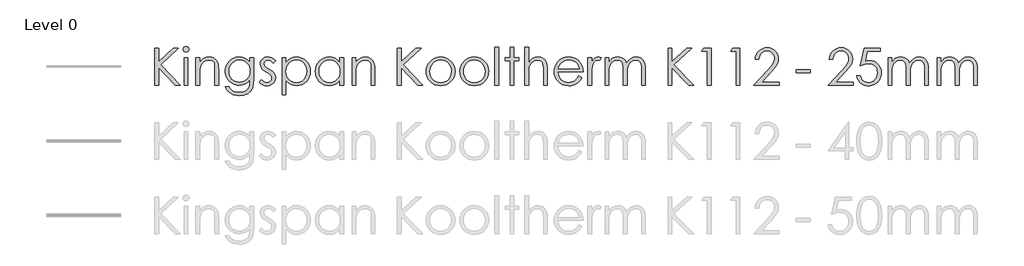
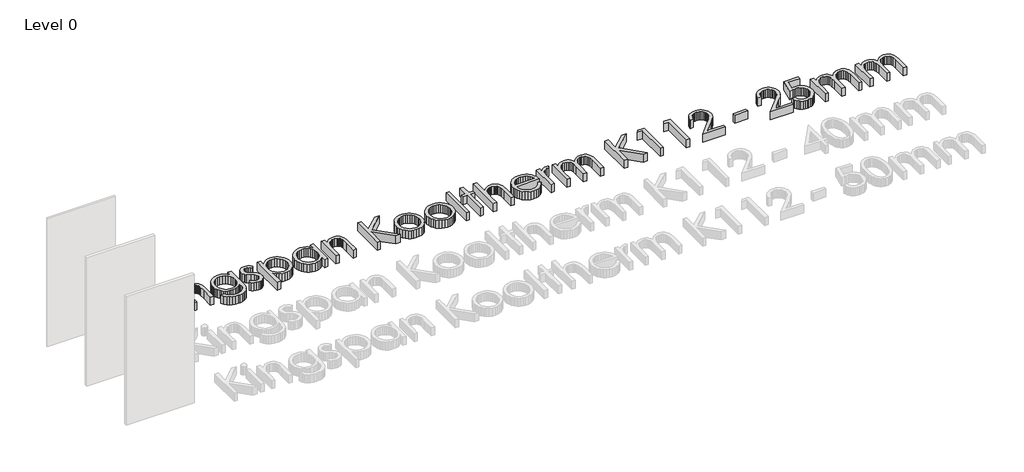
# One storey, part 14 of 14: 1 proxy.
"""IFC4 building model written with IfcOpenShell, lengths in millimetres."""

from ifc_helpers import new_model, si_unit, origin, origin_with_axes, place, context, project, spatial, polyline, outline, extrude, element, save

model = new_model("IFC4")

# Units and contexts
model_context = context("Model", 3, world=origin())
ifc_project = project(units=[si_unit("LENGTHUNIT", "METRE", prefix="MILLI")], contexts=[model_context])

# Site, building, storey
site = spatial("IfcSite", under=ifc_project)
building = spatial("IfcBuilding", under=site)
storey = spatial("IfcBuildingStorey", under=building, Name="Level 0", Elevation=0.0)

# Proxy
placement = place(None, origin())
element("IfcBuildingElementProxy", 1, Name="600mm KI_CenturyGothic", ObjectType="600mm KI_CenturyGothic", at=placement, inside=storey, context=model_context, shape_type="SweptSolid", body=[
    extrude(outline(polyline([(-3852.2663848, 5900.8965983), (-3792.944575, 5900.8965983), (-3792.944575, 5681.683973), (-3555.1938841, 5900.8965983), (-3471.6181051, 5900.8965983), (-3760.9664119, 5633.9484541), (-3441.9572002, 5307.6785001), (-3520.8984627, 5307.6785001), (-3792.944575, 5585.9039675), (-3792.944575, 5307.6785001), (-3852.2663848, 5307.6785001), (-3852.2663848, 5900.8965983)])), origin_with_axes(), (0.0, 0.0, 1.0), 150.0),
    extrude(outline(polyline([(-3348.1854852, 5930.5575033), (-3329.145347, 5927.2747208), (-3313.1176445, 5917.4263735), (-3302.226531, 5902.9821307), (-3298.5961598, 5885.911662), (-3302.226531, 5869.0729191), (-3313.1176445, 5854.7059183), (-3329.145347, 5844.857571), (-3348.1854852, 5841.5747885), (-3366.9938975, 5844.857571), (-3382.9443581, 5854.7059183), (-3393.8354717, 5869.0729191), (-3397.4658428, 5885.911662), (-3393.8354717, 5902.9821307), (-3382.9443581, 5917.4263735), (-3366.9938975, 5927.2747208), (-3348.1854852, 5930.5575033)])), origin_with_axes(), (0.0, 0.0, 1.0), 150.0),
    extrude(outline(polyline([(-3377.6919062, 5752.5920738), (-3318.3700964, 5752.5920738), (-3318.3700964, 5307.6785001), (-3377.6919062, 5307.6785001), (-3377.6919062, 5752.5920738)])), origin_with_axes(), (0.0, 0.0, 1.0), 150.0),
    extrude(outline(polyline([(-3189.8395084, 5752.5920738), (-3130.5176986, 5752.5920738), (-3130.5176986, 5673.4963274), (-3096.9946967, 5713.0055796), (-3060.0730495, 5740.696815), (-3019.7141359, 5757.0334853), (-2975.879335, 5762.4790421), (-2953.4357238, 5760.9004099), (-2932.2955704, 5756.1645135), (-2912.4588747, 5748.2713528), (-2893.9256368, 5737.2209277), (-2877.212412, 5723.4960006), (-2862.835756, 5707.5793333), (-2841.0921499, 5669.1707787), (-2833.6238199, 5644.7912914), (-2828.2892984, 5614.4448643), (-2824.0216812, 5535.8511905), (-2824.0216812, 5307.6785001), (-2883.343491, 5307.6785001), (-2883.343491, 5520.8662542), (-2883.343491, 5623.907002), (-2884.7290183, 5644.7043943), (-2889.8125035, 5662.7596977), (-2898.2849788, 5678.0729123), (-2910.1464442, 5690.644038), (-2924.7403432, 5700.4441091), (-2941.4101193, 5707.4441599), (-2980.977303, 5713.0442006), (-3005.3471351, 5710.8862539), (-3028.4038541, 5704.4124138), (-3050.1474602, 5693.6226803), (-3070.5779533, 5678.5170534), (-3088.6622225, 5660.2348518), (-3103.3671568, 5639.915394), (-3114.6927562, 5617.55868), (-3122.6390208, 5593.1647099), (-3128.5480292, 5546.0857475), (-3130.5176986, 5471.5858965), (-3130.5176986, 5307.6785001), (-3189.8395084, 5307.6785001), (-3189.8395084, 5752.5920738)])), origin_with_axes(), (0.0, 0.0, 1.0), 150.0),
    extrude(outline(polyline([(-2319.7862977, 5752.5920738), (-2260.4644879, 5752.5920738), (-2260.4644879, 5401.604699), (-2264.5196897, 5321.3503235), (-2269.588692, 5290.5500999), (-2276.6852953, 5265.9678526), (-2289.9371156, 5237.3545415), (-2307.2924139, 5212.2267729), (-2328.7511904, 5190.5845469), (-2354.3134448, 5172.4278634), (-2383.3226209, 5158.0656902), (-2415.122162, 5147.8069951), (-2449.7120682, 5141.651778), (-2487.0923395, 5139.6000389), (-2541.0458345, 5143.6166198), (-2589.206184, 5155.6663624), (-2630.260275, 5174.4940853), (-2662.8949946, 5198.8446068), (-2690.2000204, 5232.1938144), (-2715.2650299, 5278.0175952), (-2655.94322, 5278.0175952), (-2642.4355358, 5256.848476), (-2627.0933555, 5238.6048954), (-2609.9166791, 5223.2868532), (-2590.9055067, 5210.8943494), (-2569.7894914, 5201.3308318), (-2546.2982864, 5194.4997477), (-2492.1903075, 5189.0348805), (-2438.5071593, 5194.3645743), (-2415.083541, 5201.0266916), (-2393.93856, 5210.3536559), (-2359.6624492, 5234.3952097), (-2336.8567664, 5263.8823202), (-2329.3884364, 5282.5217658), (-2324.0539149, 5306.2302137), (-2319.7862977, 5368.8541165), (-2319.7862977, 5391.5632468), (-2354.757586, 5355.7809182), (-2396.6420279, 5329.3834852), (-2443.392712, 5313.1047464), (-2492.9627269, 5307.6785001), (-2522.4063889, 5309.5757553), (-2550.9521133, 5315.2675207), (-2578.5999001, 5324.7537964), (-2605.3497494, 5338.0345825), (-2630.1540674, 5354.5257366), (-2651.9652601, 5373.6431168), (-2670.7833277, 5395.3867228), (-2686.6082702, 5419.7565549), (-2699.1456025, 5446.0719183), (-2708.1008399, 5473.6521184), (-2713.4739824, 5502.4971553), (-2715.2650299, 5532.607029), (-2713.3967404, 5562.8955247), (-2707.7918722, 5592.1219437), (-2698.4504251, 5620.286286), (-2685.3723991, 5647.3885517), (-2668.9971079, 5672.5742517), (-2649.7638648, 5694.9888971), (-2627.67267, 5714.632488), (-2602.7235235, 5731.5050242), (-2575.9833294, 5745.056157), (-2548.5189922, 5754.7355376), (-2520.3305117, 5760.543166), (-2491.4178881, 5762.4790421), (-2444.5320306, 5757.5355579), (-2400.8903346, 5742.7051055), (-2359.6045177, 5716.1338782), (-2319.7862977, 5675.9680694), (-2319.7862977, 5752.5920738)]), holes=[polyline([(-2484.1571458, 5713.0442006), (-2529.0154023, 5707.0193293), (-2570.5908765, 5688.9447153), (-2606.2187212, 5660.2300242), (-2633.2340897, 5622.2849212), (-2650.2659375, 5578.0059792), (-2655.94322, 5530.2897708), (-2653.0080263, 5494.3770964), (-2644.2024452, 5461.7182387), (-2629.5264766, 5432.3131977), (-2608.9801206, 5406.1619734), (-2583.7606272, 5384.703197), (-2555.0652466, 5369.3754996), (-2522.8939786, 5360.1788811), (-2487.2468234, 5357.1133416), (-2451.3244937, 5360.154743), (-2419.1001219, 5369.2789472), (-2390.573708, 5384.4859541), (-2365.7452519, 5405.7757637), (-2345.6382095, 5432.0187128), (-2331.2760363, 5462.0851379), (-2322.6587323, 5495.975039), (-2319.7862977, 5533.6884162), (-2325.0773706, 5582.3894593), (-2340.9505892, 5625.6063246), (-2366.4983608, 5661.8327944), (-2400.8130926, 5689.5626508), (-2440.9982119, 5707.1738131), (-2484.1571458, 5713.0442006)])]), origin_with_axes(), (0.0, 0.0, 1.0), 150.0),
    extrude(outline(polyline([(-1904.5336289, 5701.3034257), (-1940.9918246, 5663.609359), (-1962.9575012, 5685.2371022), (-1984.6721416, 5700.6854902), (-2006.1357456, 5709.954523), (-2027.3483133, 5713.0442006), (-2052.181597, 5708.3710632), (-2073.2300256, 5694.3516511), (-2087.5970264, 5674.1142629), (-2092.3860267, 5650.787197), (-2088.4466878, 5629.2366958), (-2076.628671, 5608.7675817), (-2052.0657341, 5586.599145), (-2010.2006027, 5560.877579), (-1958.3326401, 5528.0111336), (-1939.8428507, 5512.1861912), (-1926.315856, 5496.7667689), (-1909.9791857, 5464.0934284), (-1904.5336289, 5427.5579908), (-1906.9474396, 5401.4115941), (-1914.1888714, 5377.3507299), (-1926.2579245, 5355.375398), (-1943.1545989, 5335.4855985), (-1963.6719892, 5318.9944443), (-1986.6031901, 5307.2150485), (-2011.9482016, 5300.147411), (-2039.7070237, 5297.7915318), (-2077.4397114, 5301.6729393), (-2113.3958344, 5313.3171617), (-2145.4512394, 5331.7972958), (-2171.4817731, 5356.1864383), (-2135.7959969, 5396.6612148), (-2114.0041146, 5375.0334717), (-2091.5749863, 5359.5850837), (-2068.5086121, 5350.3160509), (-2044.8049918, 5347.2263733), (-2013.637869, 5352.8650349), (-1987.4914724, 5369.7810198), (-1969.7644472, 5394.3439566), (-1963.8554388, 5422.9234744), (-1967.7561567, 5446.7139919), (-1979.4583106, 5467.7237995), (-2005.0253927, 5489.4287846), (-2050.2119275, 5516.2317378), (-2099.762632, 5546.8967879), (-2117.441381, 5562.0555186), (-2130.3890611, 5577.0983864), (-2146.3781427, 5609.2310334), (-2151.7078365, 5645.689229), (-2149.5305794, 5669.7356104), (-2142.9988078, 5691.6674937), (-2132.1125219, 5711.4848789), (-2116.8717217, 5729.187766), (-2098.309518, 5743.7526993), (-2077.4590218, 5754.1562231), (-2054.3202332, 5760.3983373), (-2028.8931521, 5762.4790421), (-1997.9481, 5758.6555661), (-1966.9064954, 5747.185138), (-1935.7683384, 5728.0677579), (-1904.5336289, 5701.3034257)])), origin_with_axes(), (0.0, 0.0, 1.0), 150.0),
    extrude(outline(polyline([(-1795.7769776, 5752.5920738), (-1736.4551678, 5752.5920738), (-1736.4551678, 5671.4880369), (-1700.9238754, 5711.7310876), (-1660.4490989, 5740.0788795), (-1614.9922173, 5756.8790014), (-1564.5146096, 5762.4790421), (-1520.0618732, 5758.2403906), (-1478.9305402, 5745.5244363), (-1441.1206107, 5724.331179), (-1406.6320845, 5694.6606189), (-1377.9077381, 5659.0231189), (-1357.3903478, 5619.929042), (-1345.0799137, 5577.3783884), (-1340.9764356, 5531.371158), (-1345.0412927, 5484.4708176), (-1357.235864, 5441.2491246), (-1377.5601494, 5401.706079), (-1406.014149, 5365.8416808), (-1440.2130179, 5336.0697406), (-1477.7719111, 5314.8040691), (-1518.6908288, 5302.0446661), (-1562.9697708, 5297.7915318), (-1612.6170277, 5303.256399), (-1658.0545988, 5319.6510008), (-1699.3211052, 5346.8980951), (-1736.4551678, 5384.92044), (-1736.4551678, 5149.4870072), (-1795.7769776, 5149.4870072), (-1795.7769776, 5752.5920738)]), holes=[polyline([(-1568.5311905, 5713.0442006), (-1602.5852307, 5709.7469353), (-1633.8392507, 5699.8551393), (-1662.2932503, 5683.3688128), (-1687.9472295, 5660.2879556), (-1709.1694525, 5632.3022353), (-1724.3281832, 5601.1013192), (-1733.4234216, 5566.6852074), (-1736.4551678, 5529.0538998), (-1731.048232, 5480.1983728), (-1714.8274246, 5436.5180558), (-1688.5265441, 5399.6736505), (-1652.8793888, 5371.3258586), (-1611.4390881, 5353.2512446), (-1567.7587711, 5347.2263733), (-1525.0632888, 5353.2898656), (-1485.0326535, 5371.4803424), (-1450.2544701, 5400.5812433), (-1423.3163435, 5439.3760076), (-1406.05277, 5484.0411593), (-1400.2982454, 5530.7532225), (-1405.9948385, 5577.6970114), (-1423.0846177, 5622.1304373), (-1449.8103289, 5660.4810605), (-1484.414718, 5689.1764411), (-1524.7157001, 5707.0772607), (-1568.5311905, 5713.0442006)])]), origin_with_axes(), (0.0, 0.0, 1.0), 150.0),
    extrude(outline(polyline([(-807.0801472, 5752.5920738), (-807.0801472, 5307.6785001), (-866.401957, 5307.6785001), (-866.401957, 5383.5300851), (-903.4780882, 5345.6815345), (-944.8797679, 5318.9558233), (-990.4525125, 5303.0826047), (-1040.0418379, 5297.7915318), (-1084.3159523, 5302.0446661), (-1125.2203871, 5314.8040691), (-1162.7551422, 5336.0697406), (-1196.9202178, 5365.8416808), (-1225.340424, 5401.706079), (-1245.6405713, 5441.2491246), (-1257.8206597, 5484.4708176), (-1261.8806892, 5531.371158), (-1257.7820388, 5577.3783884), (-1245.4860875, 5619.929042), (-1224.9928353, 5659.0231189), (-1196.3022822, 5694.6606189), (-1161.8475494, 5724.331179), (-1124.061758, 5745.5244363), (-1082.9449079, 5758.2403906), (-1038.4969991, 5762.4790421), (-987.7490446, 5756.8790014), (-942.0990581, 5740.0788795), (-921.2051134, 5727.3918909), (-901.6242816, 5711.7310876), (-866.401957, 5671.4880369), (-866.401957, 5752.5920738), (-807.0801472, 5752.5920738)]), holes=[polyline([(-1034.3259343, 5713.0442006), (-1078.1414247, 5707.0772607), (-1118.4424068, 5689.1764411), (-1153.0467959, 5660.4810605), (-1179.7725071, 5622.1304373), (-1196.8622863, 5577.6970114), (-1202.5588794, 5530.7532225), (-1196.8043548, 5484.0411593), (-1179.5407813, 5439.3760076), (-1152.6026548, 5400.5812433), (-1117.8244713, 5371.4803424), (-1077.6779731, 5353.2898656), (-1034.6349021, 5347.2263733), (-991.0125165, 5353.2512446), (-949.7460102, 5371.3258586), (-914.2726493, 5399.6736505), (-888.0297002, 5436.5180558), (-871.8088928, 5480.1983728), (-866.401957, 5529.0538998), (-869.4337032, 5566.6852074), (-878.5289416, 5601.1013192), (-893.6876723, 5632.3022353), (-914.9098953, 5660.2879556), (-940.5638746, 5683.3688128), (-969.0178742, 5699.8551393), (-1000.2718941, 5709.7469353), (-1034.3259343, 5713.0442006)])]), origin_with_axes(), (0.0, 0.0, 1.0), 150.0),
    extrude(outline(polyline([(-668.662591, 5752.5920738), (-609.3407811, 5752.5920738), (-609.3407811, 5673.4963274), (-575.8177792, 5713.0055796), (-538.896132, 5740.696815), (-498.5372184, 5757.0334853), (-454.7024175, 5762.4790421), (-432.2588064, 5760.9004099), (-411.1186529, 5756.1645135), (-391.2819572, 5748.2713528), (-372.7487193, 5737.2209277), (-356.0354946, 5723.4960006), (-341.6588385, 5707.5793333), (-319.9152324, 5669.1707787), (-312.4469024, 5644.7912914), (-307.1123809, 5614.4448643), (-302.8447637, 5535.8511905), (-302.8447637, 5307.6785001), (-362.1665735, 5307.6785001), (-362.1665735, 5520.8662542), (-362.1665735, 5623.907002), (-363.5521008, 5644.7043943), (-368.635586, 5662.7596977), (-377.1080613, 5678.0729123), (-388.9695267, 5690.644038), (-403.5634257, 5700.4441091), (-420.2332018, 5707.4441599), (-459.8003855, 5713.0442006), (-484.1702176, 5710.8862539), (-507.2269366, 5704.4124138), (-528.9705427, 5693.6226803), (-549.4010358, 5678.5170534), (-567.485305, 5660.2348518), (-582.1902393, 5639.915394), (-593.5158387, 5617.55868), (-601.4621033, 5593.1647099), (-607.3711117, 5546.0857475), (-609.3407811, 5471.5858965), (-609.3407811, 5307.6785001), (-668.662591, 5307.6785001), (-668.662591, 5752.5920738)])), origin_with_axes(), (0.0, 0.0, 1.0), 150.0),
    extrude(outline(polyline([(62.9730635, 5900.8965983), (122.2948734, 5900.8965983), (122.2948734, 5681.683973), (360.0455643, 5900.8965983), (443.6213432, 5900.8965983), (154.2730365, 5633.9484541), (473.2822481, 5307.6785001), (394.3409856, 5307.6785001), (122.2948734, 5585.9039675), (122.2948734, 5307.6785001), (62.9730635, 5307.6785001), (62.9730635, 5900.8965983)])), origin_with_axes(), (0.0, 0.0, 1.0), 150.0),
    extrude(outline(polyline([(760.1588128, 5762.4790421), (809.4681362, 5757.8541809), (854.3553585, 5743.9795975), (894.8204798, 5720.8552917), (930.8635, 5688.4812637), (957.7630055, 5653.2492839), (976.9769381, 5614.908316), (988.5052976, 5573.45836), (992.3480841, 5528.8994159), (988.283227, 5484.0846079), (976.0886558, 5442.1760279), (955.7643703, 5403.1736759), (927.3103707, 5367.0775519), (892.4742558, 5336.7649181), (853.0036246, 5315.1130368), (808.8984769, 5302.1219081), (760.1588128, 5297.7915318), (711.2839754, 5302.1219081), (667.0822753, 5315.1130368), (627.5537126, 5336.7649181), (592.6982872, 5367.0775519), (564.2442876, 5403.1736759), (543.9200022, 5442.1760279), (531.7254309, 5484.0846079), (527.6605738, 5528.8994159), (531.5033603, 5573.2652551), (543.0317198, 5614.5993482), (562.2456524, 5652.9016951), (589.145158, 5688.1722959), (625.2074886, 5720.6814974), (665.7305413, 5743.9023555), (710.7143161, 5757.8348705), (760.1588128, 5762.4790421)]), holes=[polyline([(760.004329, 5713.0442006), (725.7282181, 5709.6696933), (693.9624704, 5699.5461716), (664.7070856, 5682.6736353), (637.962064, 5659.0520846), (615.6584538, 5630.6415336), (599.7273037, 5599.4019965), (590.1686137, 5565.3334734), (586.9823836, 5528.4359643), (592.7948396, 5480.7004454), (610.2322075, 5436.3635719), (637.5758543, 5398.5729529), (673.1071466, 5370.4761972), (714.6439998, 5353.0388293), (760.004329, 5347.2263733), (805.3646581, 5353.0388293), (846.9015113, 5370.4761972), (882.4328037, 5398.5729529), (909.7764504, 5436.3635719), (927.2138183, 5480.7004454), (933.0262743, 5528.4359643), (929.8255614, 5565.3334734), (920.2234227, 5599.4019965), (904.2198583, 5630.6415336), (881.8148681, 5659.0520846), (854.9974321, 5682.6736353), (825.7565303, 5699.5461716), (794.0921625, 5709.6696933), (760.004329, 5713.0442006)])]), origin_with_axes(), (0.0, 0.0, 1.0), 150.0),
    extrude(outline(polyline([(1303.9420695, 5762.4790421), (1353.2513929, 5757.8541809), (1398.1386152, 5743.9795975), (1438.6037365, 5720.8552917), (1474.6467567, 5688.4812637), (1501.5462622, 5653.2492839), (1520.7601948, 5614.908316), (1532.2885543, 5573.45836), (1536.1313408, 5528.8994159), (1532.0664837, 5484.0846079), (1519.8719125, 5442.1760279), (1499.547627, 5403.1736759), (1471.0936274, 5367.0775519), (1436.2575126, 5336.7649181), (1396.7868813, 5315.1130368), (1352.6817336, 5302.1219081), (1303.9420695, 5297.7915318), (1255.0672321, 5302.1219081), (1210.865532, 5315.1130368), (1171.3369693, 5336.7649181), (1136.4815439, 5367.0775519), (1108.0275443, 5403.1736759), (1087.7032589, 5442.1760279), (1075.5086876, 5484.0846079), (1071.4438305, 5528.8994159), (1075.286617, 5573.2652551), (1086.8149766, 5614.5993482), (1106.0289091, 5652.9016951), (1132.9284147, 5688.1722959), (1168.9907453, 5720.6814974), (1209.5137981, 5743.9023555), (1254.4975728, 5757.8348705), (1303.9420695, 5762.4790421)]), holes=[polyline([(1303.7875857, 5713.0442006), (1269.5114748, 5709.6696933), (1237.7457271, 5699.5461716), (1208.4903423, 5682.6736353), (1181.7453207, 5659.0520846), (1159.4417105, 5630.6415336), (1143.5105604, 5599.4019965), (1133.9518704, 5565.3334734), (1130.7656404, 5528.4359643), (1136.5780963, 5480.7004454), (1154.0154643, 5436.3635719), (1181.359111, 5398.5729529), (1216.8904033, 5370.4761972), (1258.4272565, 5353.0388293), (1303.7875857, 5347.2263733), (1349.1479149, 5353.0388293), (1390.684768, 5370.4761972), (1426.2160604, 5398.5729529), (1453.5597071, 5436.3635719), (1470.997075, 5480.7004454), (1476.809531, 5528.4359643), (1473.6088181, 5565.3334734), (1464.0066795, 5599.4019965), (1448.003115, 5630.6415336), (1425.5981249, 5659.0520846), (1398.7806889, 5682.6736353), (1369.539787, 5699.5461716), (1337.8754193, 5709.6696933), (1303.7875857, 5713.0442006)])]), origin_with_axes(), (0.0, 0.0, 1.0), 150.0),
    extrude(outline(polyline([(1635.0010238, 5920.6705349), (1694.3228337, 5920.6705349), (1694.3228337, 5307.6785001), (1635.0010238, 5307.6785001), (1635.0010238, 5920.6705349)])), origin_with_axes(), (0.0, 0.0, 1.0), 150.0),
    extrude(outline(polyline([(1882.1752314, 5920.6705349), (1941.4970413, 5920.6705349), (1941.4970413, 5752.5920738), (2020.5927877, 5752.5920738), (2020.5927877, 5703.1572323), (1941.4970413, 5703.1572323), (1941.4970413, 5307.6785001), (1882.1752314, 5307.6785001), (1882.1752314, 5703.1572323), (1803.079485, 5703.1572323), (1803.079485, 5752.5920738), (1882.1752314, 5752.5920738), (1882.1752314, 5920.6705349)])), origin_with_axes(), (0.0, 0.0, 1.0), 150.0),
    extrude(outline(polyline([(2119.4624707, 5920.6705349), (2178.7842806, 5920.6705349), (2178.7842806, 5671.9514886), (2212.5583188, 5711.6538456), (2249.6151394, 5739.9243956), (2289.9161216, 5756.8403805), (2333.4226442, 5762.4790421), (2355.8662553, 5760.9004099), (2377.0064088, 5756.1645135), (2396.8431044, 5748.2713528), (2415.3763424, 5737.2209277), (2432.0895671, 5723.5104834), (2446.4662232, 5707.6372648), (2468.2098293, 5669.4025045), (2475.6781593, 5645.0954316), (2481.0126808, 5614.7345216), (2485.280298, 5535.8511905), (2485.280298, 5307.6785001), (2425.9584882, 5307.6785001), (2425.9584882, 5520.8662542), (2424.5681332, 5585.247411), (2420.3970685, 5623.907002), (2406.879729, 5662.7596977), (2397.1665551, 5678.0729123), (2385.4837117, 5690.644038), (2371.840854, 5700.4441091), (2356.2476374, 5707.4441599), (2319.2101273, 5713.0442006), (2296.3416854, 5710.8862539), (2274.6994594, 5704.4124138), (2254.2834492, 5693.6226803), (2235.0936547, 5678.5170534), (2218.1052556, 5660.2348518), (2204.2934312, 5639.915394), (2193.6581816, 5617.55868), (2186.1995068, 5593.1647099), (2180.6380871, 5546.3174733), (2178.7842806, 5471.5858965), (2178.7842806, 5307.6785001), (2119.4624707, 5307.6785001), (2119.4624707, 5920.6705349)])), origin_with_axes(), (0.0, 0.0, 1.0), 150.0),
    extrude(outline(polyline([(2991.0605203, 5455.9830247), (3038.950523, 5430.8021523), (3013.3255094, 5388.9177104), (2984.0315038, 5355.9547125), (2950.952643, 5330.8703926), (2913.9730643, 5312.6219843), (2872.4941426, 5301.4991449), (2825.9172528, 5297.7915318), (2774.4258447, 5302.2232881), (2728.8627554, 5315.518557), (2689.227985, 5337.6773385), (2655.5215335, 5368.6996326), (2628.6220279, 5405.3026569), (2609.4080954, 5444.2036288), (2597.8797358, 5485.4025485), (2594.0369493, 5528.8994159), (2597.3197318, 5569.7797126), (2607.1680791, 5608.381372), (2623.5819913, 5644.7043943), (2646.5614684, 5678.7487793), (2682.7493173, 5715.3807692), (2724.5758277, 5741.5464764), (2772.0409998, 5757.2459007), (2825.1448334, 5762.4790421), (2879.7935059, 5757.1107273), (2928.6490329, 5741.0057828), (2971.7114143, 5714.1642087), (3008.9806503, 5676.5860049), (3030.4539096, 5644.414737), (3045.9022976, 5608.458614), (3055.3258143, 5568.7176359), (3058.7244596, 5525.1918028), (2653.3587591, 5525.1918028), (2657.095338, 5487.9370497), (2666.6057518, 5454.1871496), (2681.8900007, 5423.9421025), (2702.9480845, 5397.2019084), (2728.3124066, 5375.3376118), (2756.5153699, 5359.7202571), (2787.5569744, 5350.3498443), (2821.4372203, 5347.2263733), (2854.9602222, 5350.238809), (2887.5563208, 5359.2761159), (2917.2944677, 5373.3148385), (2942.2436143, 5391.331521), (2965.725164, 5417.4972281), (2991.0605203, 5455.9830247)]), holes=[polyline([(2999.4026498, 5574.6266443), (2984.9777175, 5617.1483322), (2965.1844704, 5650.1692615), (2939.0766947, 5675.6977226), (2905.7081767, 5695.742006), (2867.7630738, 5708.7186519), (2827.9255433, 5713.0442006), (2795.503239, 5710.3310774), (2765.4368139, 5702.191708), (2737.726268, 5688.6260923), (2712.3716012, 5669.6342304), (2695.8321708, 5651.820308), (2681.4362043, 5630.0477362), (2669.1837016, 5604.316515), (2659.0746627, 5574.6266443), (2999.4026498, 5574.6266443)])]), origin_with_axes(), (0.0, 0.0, 1.0), 150.0),
    extrude(outline(polyline([(3137.820206, 5752.5920738), (3197.1420159, 5752.5920738), (3197.1420159, 5688.1722959), (3222.6897875, 5721.2125357), (3249.589293, 5744.3271862), (3277.7632906, 5757.9410781), (3307.1345382, 5762.4790421), (3330.4616041, 5758.694187), (3355.3335087, 5747.3396219), (3325.8270877, 5705.3200066), (3297.2475699, 5713.0442006), (3270.8308265, 5707.0965712), (3245.3409863, 5689.2536831), (3223.2884125, 5658.8976007), (3207.183468, 5615.4103886), (3199.6523789, 5557.2858288), (3197.1420159, 5459.8451217), (3197.1420159, 5307.6785001), (3137.820206, 5307.6785001), (3137.820206, 5752.5920738)])), origin_with_axes(), (0.0, 0.0, 1.0), 150.0),
    extrude(outline(polyline([(3414.6553185, 5752.5920738), (3473.9771284, 5752.5920738), (3473.9771284, 5676.4315211), (3503.5607913, 5712.9283377), (3533.9168737, 5738.0705891), (3577.3268439, 5756.3769288), (3622.8995884, 5762.4790421), (3653.7384329, 5759.331433), (3682.9165757, 5749.8886059), (3708.6767627, 5735.2126373), (3729.2617397, 5716.365604), (3746.0425511, 5690.9336953), (3760.3902414, 5656.5031006), (3775.16759, 5680.9018983), (3791.6925376, 5702.191708), (3809.965084, 5720.3725296), (3829.9852293, 5735.4443631), (3851.2798666, 5747.2720352), (3873.375889, 5755.7203723), (3896.2732965, 5760.7893747), (3919.9720892, 5762.4790421), (3962.3006723, 5756.6665861), (3981.4952943, 5749.4010161), (3999.3768034, 5739.2292182), (4015.4914031, 5726.46016), (4029.385297, 5711.4028093), (4050.5109676, 5674.4232306), (4057.8103309, 5651.0478886), (4063.0241619, 5622.4780261), (4067.1952266, 5549.7547397), (4067.1952266, 5307.6785001), (4007.8734168, 5307.6785001), (4007.8734168, 5553.3078689), (4005.4209852, 5614.4255538), (3998.0636904, 5652.8727294), (3984.7587663, 5677.3391139), (3964.4634466, 5696.5144254), (3938.3942919, 5708.9117568), (3907.7678627, 5713.0442006), (3888.1194443, 5711.4945341), (3869.3399976, 5706.8455349), (3834.3880198, 5688.2495379), (3805.6540182, 5659.3031209), (3785.8800816, 5622.0531954), (3779.1889985, 5597.8957787), (3774.4096535, 5566.8252084), (3770.5861775, 5483.9446069), (3770.5861775, 5307.6785001), (3711.2643677, 5307.6785001), (3711.2643677, 5538.0139648), (3708.850557, 5606.469634), (3701.6091252, 5648.7016647), (3688.3621325, 5674.9446137), (3667.9316394, 5695.4330383), (3641.6114484, 5708.64141), (3610.6953619, 5713.0442006), (3573.7544042, 5707.0000188), (3539.2465676, 5688.8674734), (3510.2808401, 5660.500371), (3489.9662099, 5623.7525181), (3477.9743988, 5571.9231764), (3473.9771284, 5498.3116077), (3473.9771284, 5307.6785001), (3414.6553185, 5307.6785001), (3414.6553185, 5752.5920738)])), origin_with_axes(), (0.0, 0.0, 1.0), 150.0),
    extrude(outline(polyline([(4433.0130538, 5900.8965983), (4492.3348637, 5900.8965983), (4492.3348637, 5681.683973), (4730.0855546, 5900.8965983), (4813.6613335, 5900.8965983), (4524.3130268, 5633.9484541), (4843.3222385, 5307.6785001), (4764.3809759, 5307.6785001), (4492.3348637, 5585.9039675), (4492.3348637, 5307.6785001), (4433.0130538, 5307.6785001), (4433.0130538, 5900.8965983)])), origin_with_axes(), (0.0, 0.0, 1.0), 150.0),
    extrude(outline(polyline([(5010.6282802, 5900.8965983), (5125.1008351, 5900.8965983), (5125.1008351, 5307.6785001), (5065.7790253, 5307.6785001), (5065.7790253, 5851.4617568), (4976.7963106, 5851.4617568), (5010.6282802, 5900.8965983)])), origin_with_axes(), (0.0, 0.0, 1.0), 150.0),
    extrude(outline(polyline([(5475.3157905, 5900.8965983), (5589.7883454, 5900.8965983), (5589.7883454, 5307.6785001), (5530.4665356, 5307.6785001), (5530.4665356, 5851.4617568), (5441.4838208, 5851.4617568), (5475.3157905, 5900.8965983)])), origin_with_axes(), (0.0, 0.0, 1.0), 150.0),
    extrude(outline(polyline([(5896.2843628, 5722.9311689), (5836.962553, 5722.9311689), (5841.4474131, 5762.1893848), (5852.5847353, 5797.7786086), (5870.3745196, 5829.6988403), (5894.816766, 5857.9500798), (5924.2121517, 5881.0647303), (5956.8613542, 5897.5751949), (5992.7643733, 5907.4814737), (6031.9212092, 5910.7835666), (6070.3925229, 5907.4863013), (6105.0113948, 5897.5945054), (6135.777825, 5881.1081789), (6162.6918135, 5858.0273217), (6184.5561101, 5830.466432), (6200.1734648, 5800.540008), (6209.5438776, 5768.2480495), (6212.6673485, 5733.5905566), (6206.5845458, 5684.7929611), (6188.3361375, 5639.1236641), (6152.5538088, 5587.236391), (6093.869245, 5519.784867), (5941.084688, 5357.1133416), (6222.5543169, 5357.1133416), (6222.5543169, 5307.6785001), (5817.1886164, 5307.6785001), (6043.1985325, 5548.3643848), (6099.9327373, 5613.8848603), (6132.6446988, 5659.9789879), (6148.1703288, 5697.3447763), (6153.3455387, 5736.6802342), (6151.0958672, 5761.2866196), (6144.3468527, 5784.1260957), (6133.0984952, 5805.1986625), (6117.3507947, 5824.5043198), (6098.3396223, 5840.6237471), (6077.3008489, 5852.1376238), (6054.2344746, 5859.0459498), (6029.1404994, 5861.3487251), (6002.8058255, 5859.0749155), (5978.7980651, 5852.2534867), (5957.1172181, 5840.8844387), (5937.7632845, 5824.9677714), (5921.5279943, 5804.9476262), (5909.2030773, 5781.268144), (5900.7885334, 5753.9293249), (5896.2843628, 5722.9311689)])), origin_with_axes(), (0.0, 0.0, 1.0), 150.0),
    extrude(outline(polyline([(6499.3894294, 5554.8527077), (6726.7897004, 5554.8527077), (6726.7897004, 5505.4178662), (6499.3894294, 5505.4178662), (6499.3894294, 5554.8527077)])), origin_with_axes(), (0.0, 0.0, 1.0), 150.0),
    extrude(outline(polyline([(7092.6075276, 5722.9311689), (7033.2857178, 5722.9311689), (7037.7705779, 5762.1893848), (7048.9079001, 5797.7786086), (7066.6976844, 5829.6988403), (7091.1399307, 5857.9500798), (7120.5353165, 5881.0647303), (7153.1845189, 5897.5751949), (7189.0875381, 5907.4814737), (7228.244374, 5910.7835666), (7266.7156877, 5907.4863013), (7301.3345596, 5897.5945054), (7332.1009898, 5881.1081789), (7359.0149782, 5858.0273217), (7380.8792748, 5830.466432), (7396.4966295, 5800.540008), (7405.8670424, 5768.2480495), (7408.9905133, 5733.5905566), (7402.9077106, 5684.7929611), (7384.6593023, 5639.1236641), (7348.8769736, 5587.236391), (7290.1924098, 5519.784867), (7137.4078527, 5357.1133416), (7418.8774816, 5357.1133416), (7418.8774816, 5307.6785001), (7013.5117812, 5307.6785001), (7239.5216972, 5548.3643848), (7296.2559021, 5613.8848603), (7328.9678636, 5659.9789879), (7344.4934935, 5697.3447763), (7349.6687035, 5736.6802342), (7347.419032, 5761.2866196), (7340.6700175, 5784.1260957), (7329.42166, 5805.1986625), (7313.6739595, 5824.5043198), (7294.6627871, 5840.6237471), (7273.6240137, 5852.1376238), (7250.5576394, 5859.0459498), (7225.4636642, 5861.3487251), (7199.1289903, 5859.0749155), (7175.1212299, 5852.2534867), (7153.4403829, 5840.8844387), (7134.0864493, 5824.9677714), (7117.8511591, 5804.9476262), (7105.526242, 5781.268144), (7097.1116982, 5753.9293249), (7092.6075276, 5722.9311689)])), origin_with_axes(), (0.0, 0.0, 1.0), 150.0),
    extrude(outline(polyline([(7853.904087, 5900.8965983), (7853.904087, 5851.4617568), (7646.5867204, 5851.4617568), (7612.1368152, 5690.4895541), (7649.7150189, 5699.9903127), (7683.3538838, 5703.1572323), (7722.9403779, 5699.7344488), (7758.8965009, 5689.4660984), (7791.2222528, 5672.3521811), (7819.9176335, 5648.3926969), (7843.4378041, 5619.0842083), (7860.2379261, 5585.923278), (7870.3179992, 5548.909906), (7873.6780236, 5508.0440921), (7871.9545628, 5479.0783647), (7866.7841805, 5451.3485083), (7858.1668766, 5424.8545229), (7846.1026511, 5399.5964086), (7831.0984042, 5376.3948609), (7813.6610363, 5356.0705754), (7793.7905473, 5338.6235523), (7771.4869371, 5324.0537914), (7747.054346, 5312.5640528), (7720.7969141, 5304.3570967), (7692.7146413, 5299.432923), (7662.8075277, 5297.7915318), (7627.4741679, 5300.5481035), (7595.008415, 5308.8178187), (7565.4102692, 5322.6006774), (7538.6797304, 5341.8966795), (7515.9271515, 5365.5665064), (7498.2628853, 5392.4708396), (7485.686932, 5422.609679), (7478.1992914, 5455.9830247), (7537.5211013, 5455.9830247), (7547.0991018, 5423.2517526), (7561.6205865, 5397.3563923), (7581.4524546, 5377.0417621), (7606.9616052, 5361.0526806), (7635.9852641, 5350.6829501), (7666.360657, 5347.2263733), (7695.6498351, 5350.1519118), (7722.8052045, 5358.9285272), (7747.8267654, 5373.5562196), (7770.7145178, 5394.0349889), (7789.8077598, 5418.9068935), (7803.4457898, 5446.7139919), (7811.6286078, 5477.456284), (7814.3562138, 5511.1337697), (7811.8941269, 5541.3208854), (7804.5078664, 5568.5438415), (7792.1974323, 5592.8026383), (7774.9628244, 5614.0972756), (7753.6054281, 5631.4332635), (7728.9266283, 5643.816112), (7700.9264251, 5651.245821), (7669.6048185, 5653.7223907), (7640.8997825, 5651.8685842), (7609.3174844, 5646.3071645), (7537.5211013, 5624.0614858), (7596.8429111, 5900.8965983), (7853.904087, 5900.8965983)])), origin_with_axes(), (0.0, 0.0, 1.0), 150.0),
    extrude(outline(polyline([(7982.4346749, 5752.5920738), (8041.7564848, 5752.5920738), (8041.7564848, 5676.4315211), (8071.3401477, 5712.9283377), (8101.6962301, 5738.0705891), (8145.1062003, 5756.3769288), (8190.6789448, 5762.4790421), (8221.5177893, 5759.331433), (8250.6959321, 5749.8886059), (8276.4561191, 5735.2126373), (8297.0410961, 5716.365604), (8313.8219075, 5690.9336953), (8328.1695978, 5656.5031006), (8342.9469464, 5680.9018983), (8359.471894, 5702.191708), (8377.7444404, 5720.3725296), (8397.7645856, 5735.4443631), (8419.0592229, 5747.2720352), (8441.1552454, 5755.7203723), (8464.0526529, 5760.7893747), (8487.7514456, 5762.4790421), (8530.0800287, 5756.6665861), (8549.2746507, 5749.4010161), (8567.1561598, 5739.2292182), (8583.2707595, 5726.46016), (8597.1646534, 5711.4028093), (8618.290324, 5674.4232306), (8625.5896873, 5651.0478886), (8630.8035182, 5622.4780261), (8634.974583, 5549.7547397), (8634.974583, 5307.6785001), (8575.6527732, 5307.6785001), (8575.6527732, 5553.3078689), (8573.2003416, 5614.4255538), (8565.8430468, 5652.8727294), (8552.5381227, 5677.3391139), (8532.242803, 5696.5144254), (8506.1736483, 5708.9117568), (8475.5472191, 5713.0442006), (8455.8988006, 5711.4945341), (8437.119354, 5706.8455349), (8402.1673762, 5688.2495379), (8373.4333746, 5659.3031209), (8353.659438, 5622.0531954), (8346.9683549, 5597.8957787), (8342.1890099, 5566.8252084), (8338.3655339, 5483.9446069), (8338.3655339, 5307.6785001), (8279.0437241, 5307.6785001), (8279.0437241, 5538.0139648), (8276.6299134, 5606.469634), (8269.3884816, 5648.7016647), (8256.1414889, 5674.9446137), (8235.7109958, 5695.4330383), (8209.3908048, 5708.64141), (8178.4747183, 5713.0442006), (8141.5337606, 5707.0000188), (8107.025924, 5688.8674734), (8078.0601965, 5660.500371), (8057.7455663, 5623.7525181), (8045.7537552, 5571.9231764), (8041.7564848, 5498.3116077), (8041.7564848, 5307.6785001), (7982.4346749, 5307.6785001), (7982.4346749, 5752.5920738)])), origin_with_axes(), (0.0, 0.0, 1.0), 150.0),
    extrude(outline(polyline([(8773.3921393, 5752.5920738), (8832.7139491, 5752.5920738), (8832.7139491, 5676.4315211), (8862.2976121, 5712.9283377), (8892.6536944, 5738.0705891), (8936.0636646, 5756.3769288), (8981.6364092, 5762.4790421), (9012.4752537, 5759.331433), (9041.6533964, 5749.8886059), (9067.4135834, 5735.2126373), (9087.9985604, 5716.365604), (9104.7793718, 5690.9336953), (9119.1270621, 5656.5031006), (9133.9044108, 5680.9018983), (9150.4293583, 5702.191708), (9168.7019047, 5720.3725296), (9188.72205, 5735.4443631), (9210.0166873, 5747.2720352), (9232.1127097, 5755.7203723), (9255.0101172, 5760.7893747), (9278.7089099, 5762.4790421), (9321.037493, 5756.6665861), (9340.232115, 5749.4010161), (9358.1136241, 5739.2292182), (9374.2282238, 5726.46016), (9388.1221177, 5711.4028093), (9409.2477883, 5674.4232306), (9416.5471516, 5651.0478886), (9421.7609826, 5622.4780261), (9425.9320473, 5549.7547397), (9425.9320473, 5307.6785001), (9366.6102375, 5307.6785001), (9366.6102375, 5553.3078689), (9364.1578059, 5614.4255538), (9356.8005111, 5652.8727294), (9343.495587, 5677.3391139), (9323.2002673, 5696.5144254), (9297.1311126, 5708.9117568), (9266.5046834, 5713.0442006), (9246.856265, 5711.4945341), (9228.0768183, 5706.8455349), (9193.1248405, 5688.2495379), (9164.3908389, 5659.3031209), (9144.6169023, 5622.0531954), (9137.9258192, 5597.8957787), (9133.1464742, 5566.8252084), (9129.3229982, 5483.9446069), (9129.3229982, 5307.6785001), (9070.0011884, 5307.6785001), (9070.0011884, 5538.0139648), (9067.5873778, 5606.469634), (9060.3459459, 5648.7016647), (9047.0989532, 5674.9446137), (9026.6684601, 5695.4330383), (9000.3482691, 5708.64141), (8969.4321827, 5713.0442006), (8932.4912249, 5707.0000188), (8897.9833883, 5688.8674734), (8869.0176608, 5660.500371), (8848.7030306, 5623.7525181), (8836.7112195, 5571.9231764), (8832.7139491, 5498.3116077), (8832.7139491, 5307.6785001), (8773.3921393, 5307.6785001), (8773.3921393, 5752.5920738)])), origin_with_axes(), (0.0, 0.0, 1.0), 150.0),
])

save(model, "model.ifc")
